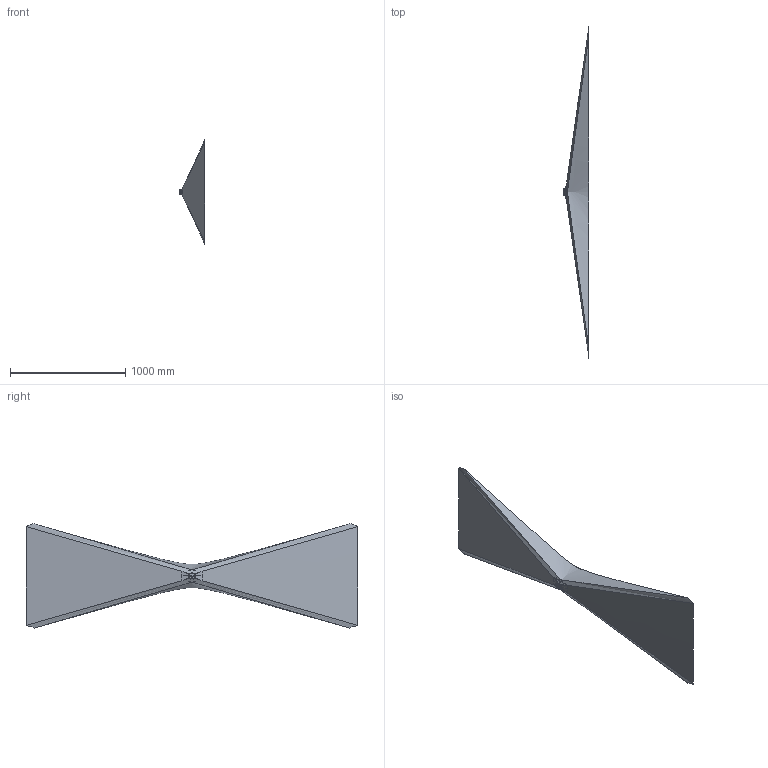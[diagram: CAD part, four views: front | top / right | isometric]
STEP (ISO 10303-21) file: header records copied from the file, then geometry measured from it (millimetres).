
FILE_DESCRIPTION(('CATIA V5 STEP Exchange','CAx-IF Rec.Pracs.--- Model Styling and Organization---1.5--- 2016-08-15','CAx-IF Rec.Pracs.---Supplemental Geometry---1.0---2011-11-01','CAx-IF Rec.Pracs.--- Composite Materials ---1.1---2010-07-15'),'2;1');
FILE_NAME('E:\tmp\ddx\2011206\HELLA_3D_data_LED_position_lamp_SHAPELINE_013-323_tech.stp','2022-01-18T07:30:41+00:00',('none'),('none'),'CATIA Version 5-6 Release 2020 SP3 HF9','CATIA V5 STEP AP214 Edition 3 v2','none');
FILE_SCHEMA(('AUTOMOTIVE_DESIGN { 1 0 10303 214 3 1 1 1 }'));
Products named in the file (1): 10001729514_D10_001
Bounding box: 224.1 x 2879.54 x 903.74 mm (x, y, z)
Surface area: 2302656.4 mm2
Topology: 2 solids, 4 shells, 2310 faces, 5539 edges, 3161 vertices
Faces by surface type: bspline 1413, plane 299, cylinder 293, torus 130, cone 125, sphere 50
Entity records: 136052 total; most frequent: CARTESIAN_POINT 99206, ORIENTED_EDGE 10854, EDGE_CURVE 5457, B_SPLINE_CURVE_WITH_KNOTS 3165, VERTEX_POINT 3161, DIRECTION 2454, EDGE_LOOP 2324, ADVANCED_FACE 2310
